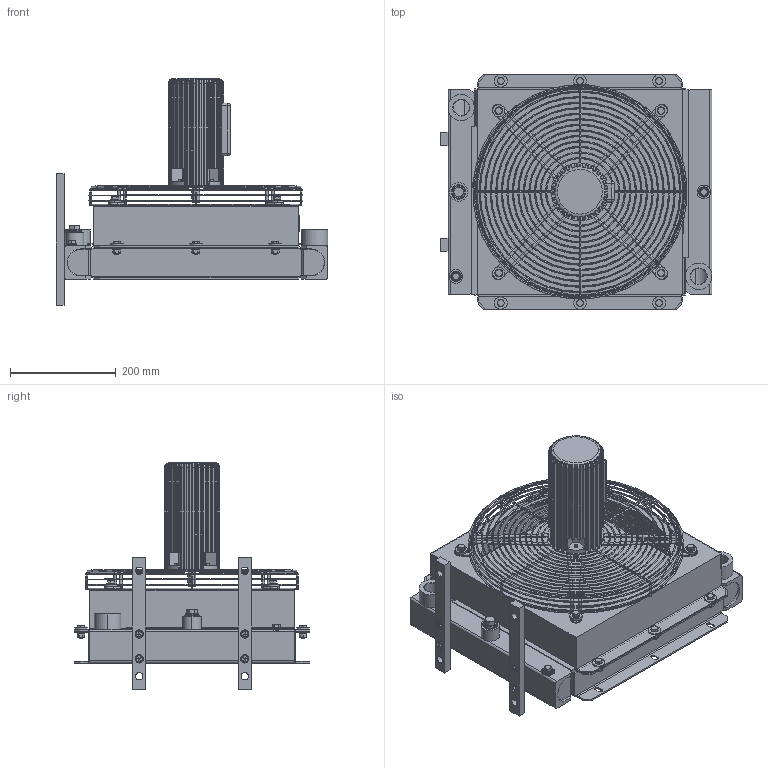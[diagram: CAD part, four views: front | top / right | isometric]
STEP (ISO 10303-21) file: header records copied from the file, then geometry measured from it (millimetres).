
FILE_DESCRIPTION((' '),'1');
FILE_NAME('5203.203.0000.step','2007-09-12 T',(' '),(' '),'STEP Interface v1.0 by CT CoreTechnologie','3D_Evolution v1.0 by CT CoreTechnologie',' ');
FILE_SCHEMA(('AUTOMOTIVE_DESIGN_CC2 { 1 2 10303 214 -1 1 5 2 }'));
Length unit declared in the file: millimetre
Products named in the file (78): 5203_203_0000; Sechskantschraube_ISO_4017-M6x16-8_8-A3B; 603503; 8407_173_1903; 6038281; 6038282; 6038283; 6038284; 8402_450_00001; 8402_450_00002; 8402_450_00003; 8402_450_00004; 8402_450_00005; 8402_450_00006; 8402_450_00007; 8402_450_00008; 8402_450_00009; 8402_450_000010; 8402_450_000011; 8402_450_000012; 8402_450_000013; 8402_450_000014; 8402_450_000015; 8402_450_000016; 8402_450_000017; 8402_450_000018; 8402_450_000019; 8402_450_000020; 8402_450_000021; 8402_450_000022; 8402_450_000023; 8402_450_000024; 8402_450_000025; 8402_450_000026; 8402_450_000027; Sechskantschraube_ISO_4017-M8x20-8_8-A3B; 6030041; 6030042; 6030043; 6030044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
Assembly tree (116 placements, depth 4):
  5203_203_0000
    Sechskantschraube_ISO_4017-M6x16-8_8-A3B  x4
    603503  x4
    8407_173_1903
    6038281
    6038282
    6038283
    6038284
    8402_450_00001
    8402_450_00002
    8402_450_00003
    8402_450_00004
    8402_450_00005
    8402_450_00006
    8402_450_00007
    8402_450_00008
    8402_450_00009
    8402_450_000010
    8402_450_000011
    8402_450_000012
    8402_450_000013
    8402_450_000014
    8402_450_000015
    8402_450_000016
    8402_450_000017
    8402_450_000018
    8402_450_000019
    8402_450_000020
    8402_450_000021
    8402_450_000022
    8402_450_000023
    8402_450_000024
    8402_450_000025
    8402_450_000026
    8402_450_000027
    Sechskantschraube_ISO_4017-M8x20-8_8-A3B  x10
    6030041
    6030042
    6030043
    6030044
    6030045
    6030046
    603857  x12
    5203_203_40101
      m81
      m82
      m83
      m84
      5203_203_40102
    6004031
    6004032
    6004033
    6004034
    603504  x14
    5202_202_12101
    5202_202_12102
    5203_201_1000
      603250
      603666
      6032951
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Bounding box: 515 x 445.89 x 430 mm (x, y, z)
Volume: 13264463.7 mm3; surface area: 1680464 mm2
Topology: 111 solids, 111 shells, 4130 faces, 10394 edges, 6708 vertices
Faces by surface type: plane 2345, cylinder 691, bspline 605, torus 267, cone 218, sphere 4
Entity records: 184285 total; most frequent: CARTESIAN_POINT 63787, ORIENTED_EDGE 18616, DIRECTION 16413, EDGE_CURVE 9308, VECTOR 6189, LINE 6189, VERTEX_POINT 6020, AXIS2_PLACEMENT_3D 5112
